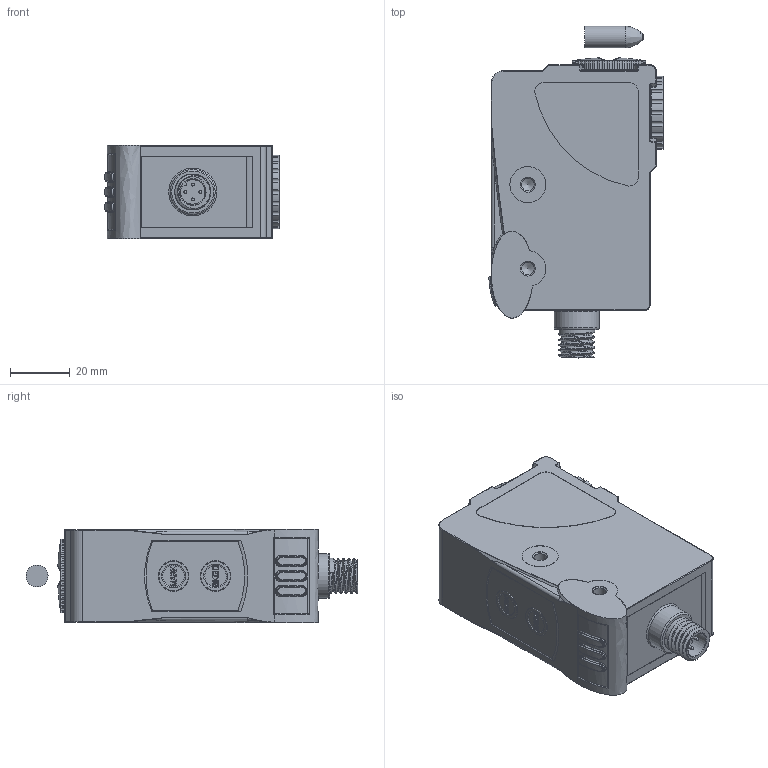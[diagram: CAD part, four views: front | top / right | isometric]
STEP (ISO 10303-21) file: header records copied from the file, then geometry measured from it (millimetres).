
FILE_DESCRIPTION(/* description */ (''),/* implementation_level */ '2;1');
FILE_NAME(/* name */ '3DCAD_KRT21_M12.stp',/* time_stamp */ '2015-03-06T12:14:26+01:00',/* author */ (''),/* organization */ (''),/* preprocessor_version */ 'ST-DEVELOPER v15',/* originating_system */ 'SIEMENS PLM Software NX 8.5',/* authorisation */ '');
FILE_SCHEMA (('AUTOMOTIVE_DESIGN { 1 0 10303 214 3 1 1 1 }'));
Length unit declared in the file: millimetre
Products named in the file (1): 007123_00.0
Bounding box: 58.08 x 110.74 x 31.2 mm (x, y, z)
Volume: 136580 mm3; surface area: 21394.5 mm2
Topology: 3 solids, 3 shells, 740 faces, 1893 edges, 1172 vertices
Faces by surface type: cylinder 291, plane 177, bspline 110, extrusion 59, torus 56, sphere 28, cone 19
Full cylindrical faces by diameter (mm): 1 x4, 3.538 x1, 4.2 x8, 5 x4, 7.338 x1, 12 x2, 15 x1, 20 x3
Entity records: 29929 total; most frequent: CARTESIAN_POINT 11632, ORIENTED_EDGE 3546, DIRECTION 3131, EDGE_CURVE 1773, AXIS2_PLACEMENT_3D 1268, VERTEX_POINT 1140, EDGE_LOOP 833, ADVANCED_FACE 740
